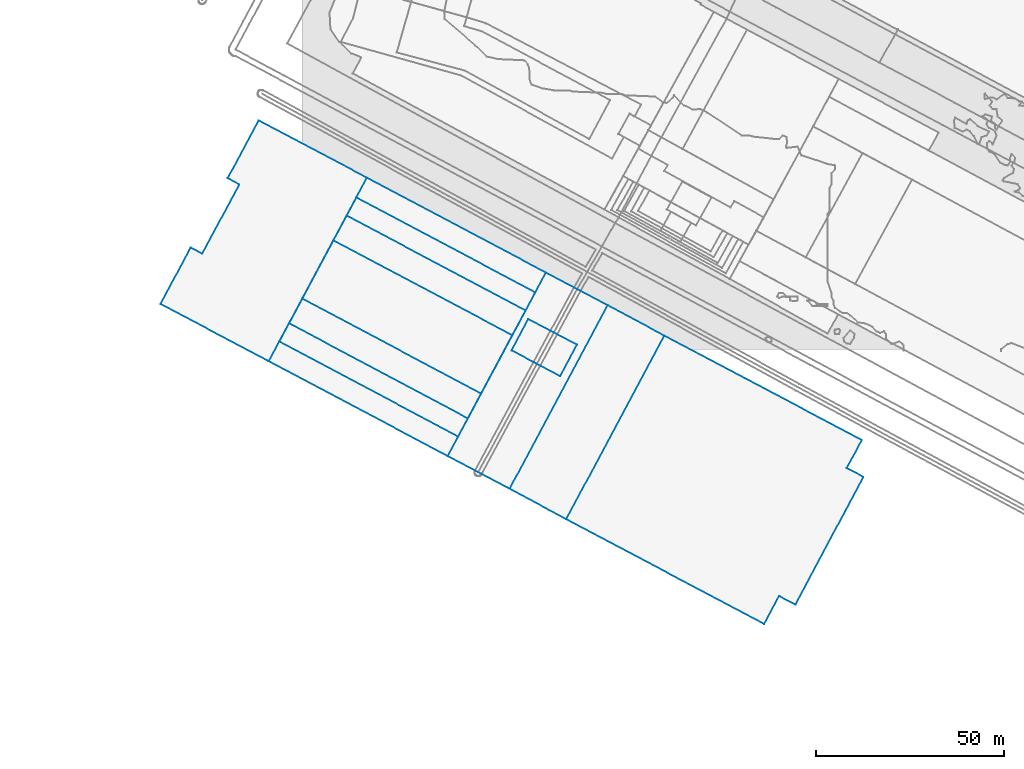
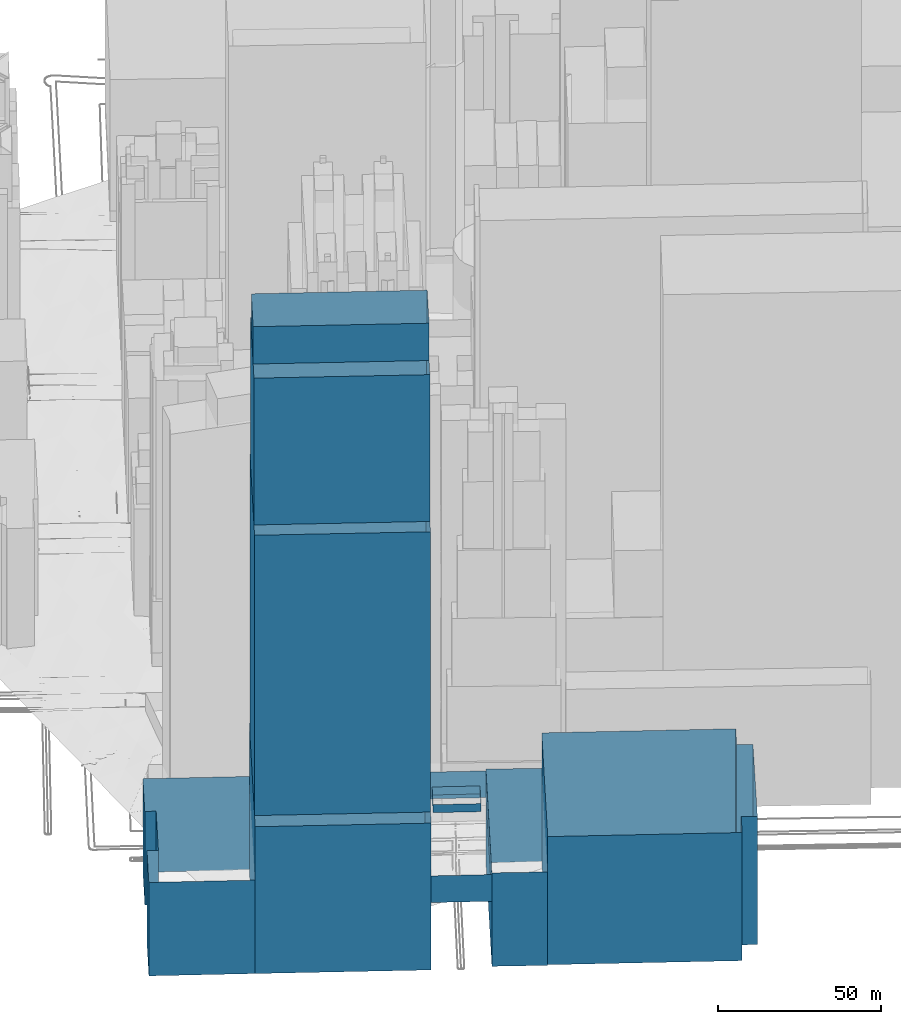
# Not in any storey, part 14 of 76: 9 walls.
"""IFC2X3 model written with IfcOpenShell, lengths in metres."""

from ifc_helpers import new_model, si_unit, frame, origin_with_axes, place, context, subcontext, project, faceted_brep, element, save


model = new_model("IFC2X3")

# Units and contexts
model_context = context("Model", 3, precision=1e-05, world=origin_with_axes())
body_context = subcontext(model_context, "Body", "Model", "MODEL_VIEW")
ifc_project = project(units=[si_unit("AREAUNIT", "SQUARE_METRE"), si_unit("LENGTHUNIT", "METRE")], contexts=[model_context])

# Walls
wall_1_placement = place(None, frame((70.4319082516, -45.3124381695, 19.6413035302), z_axis=(0.0, 0.0, 1.0), x_axis=(1.0, 0.0, 0.0)))
element("IfcWall", 1, at=wall_1_placement, Name="Mur 0", context=body_context, shape_type="Brep", body=[
    faceted_brep([(52.7563009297, -27.9312178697, 48.0), (0.0, 0.0, 48.0), (52.7563009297, -27.9312178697, 0.0), (0.0, 0.0, 0.0), (56.721804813, -20.4799520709, 48.0), (56.721804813, -20.4799520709, 0.0), (61.1215341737, -22.7936176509, 48.0), (61.1215341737, -22.7936176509, 0.0), (79.2214604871, 11.2896457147, 48.0), (79.2214604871, 11.2896457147, 0.0), (74.804734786, 13.6142050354, 48.0), (74.804734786, 13.6142050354, 0.0), (78.7949988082, 21.1101810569, 48.0), (78.7949988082, 21.1101810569, 0.0), (26.1498243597, 48.9425792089, 48.0), (26.1498243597, 48.9425792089, 0.0)], [[[0, 1, 2]], [[2, 1, 3]], [[4, 0, 5]], [[5, 0, 2]], [[6, 4, 7]], [[7, 4, 5]], [[8, 6, 9]], [[9, 6, 7]], [[10, 8, 11]], [[11, 8, 9]], [[12, 10, 13]], [[13, 10, 11]], [[1, 14, 3]], [[3, 14, 15]], [[14, 12, 15]], [[15, 12, 13]]]),
])
wall_2_placement = place(None, frame((-37.764592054, 12.0631870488, 18.5499973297), z_axis=(0.0, 0.0, 1.0), x_axis=(1.0, 0.0, 0.0)))
element("IfcWall", 2, at=wall_2_placement, Name="Mur 0", context=body_context, shape_type="Brep", body=[
    faceted_brep([(28.8870060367, -15.2414440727, 35.0), (0.0, 0.0, 35.0), (28.8870060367, -15.2414440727, 0.0), (0.0, 0.0, 0.0), (55.0371870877, 33.7008524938, 35.0), (55.0371870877, 33.7008524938, 0.0), (26.1587518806, 48.9422915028, 35.0), (26.1587518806, 48.9422915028, 0.0), (17.9295410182, 33.536852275, 35.0), (17.9295410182, 33.536852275, 0.0), (21.0212047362, 31.907372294, 35.0), (21.0212047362, 31.907372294, 0.0), (11.1393837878, 13.4185558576, 35.0), (11.1393837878, 13.4185558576, 0.0), (8.0475860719, 15.0591407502, 35.0), (8.0475860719, 15.0591407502, 0.0)], [[[0, 1, 2]], [[2, 1, 3]], [[4, 0, 5]], [[5, 0, 2]], [[6, 4, 7]], [[7, 4, 5]], [[8, 6, 9]], [[9, 6, 7]], [[10, 8, 11]], [[11, 8, 9]], [[12, 10, 13]], [[13, 10, 11]], [[1, 14, 3]], [[3, 14, 15]], [[14, 12, 15]], [[15, 12, 13]]]),
])
wall_3_placement = place(None, frame((0.0457305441, 13.5231043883, 233.5817263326), z_axis=(0.0, 0.0, 1.0), x_axis=(1.0, 0.0, 0.0)))
element("IfcWall", 3, at=wall_3_placement, Name="Mur 0", context=body_context, shape_type="Brep", body=[
    faceted_brep([(47.6860402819, -25.3593207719, 14.0), (0.0, 0.0, 14.0), (47.6860402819, -25.3593207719, 0.0), (0.0, 0.0, 0.0), (56.0060946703, -9.7862176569, 14.0), (56.0060946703, -9.7862176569, 0.0), (8.2954448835, 15.5172515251, 14.0), (8.2954448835, 15.5172515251, 0.0)], [[[0, 1, 2]], [[2, 1, 3]], [[4, 0, 5]], [[5, 0, 2]], [[1, 6, 3]], [[3, 6, 7]], [[6, 4, 7]], [[7, 4, 5]]]),
])
wall_4_placement = place(None, frame((-3.482289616, 6.9207531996, 178.5499973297), z_axis=(0.0, 0.0, 1.0), x_axis=(1.0, 0.0, 0.0)))
element("IfcWall", 4, at=wall_4_placement, Name="Mur 0", context=body_context, shape_type="Brep", body=[
    faceted_brep([(47.6860692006, -25.359343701, 55.0), (0.0, 0.0, 55.0), (47.6860692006, -25.359343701, 0.0), (0.0, 0.0, 0.0), (63.0622131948, 3.4074130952, 55.0), (63.0622131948, 3.4074130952, 0.0), (15.3430229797, 28.7218621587, 55.0), (15.3430229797, 28.7218621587, 0.0)], [[[0, 1, 2]], [[2, 1, 3]], [[4, 0, 5]], [[5, 0, 2]], [[1, 6, 3]], [[3, 6, 7]], [[6, 4, 7]], [[7, 4, 5]]]),
])
wall_5_placement = place(None, frame((-6.0684346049, 2.0834835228, 73.5499973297), z_axis=(0.0, 0.0, 1.0), x_axis=(1.0, 0.0, 0.0)))
element("IfcWall", 5, at=wall_5_placement, Name="Mur 0", context=body_context, shape_type="Brep", body=[
    faceted_brep([(47.6862192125, -25.3704612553, 105.0), (0.0, 0.0, 105.0), (47.6862192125, -25.3704612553, 0.0), (0.0, 0.0, 0.0), (68.234328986, 13.0930768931, 105.0), (68.234328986, 13.0930768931, 0.0), (20.5236005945, 38.4076070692, 105.0), (20.5236005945, 38.4076070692, 0.0)], [[[0, 1, 2]], [[2, 1, 3]], [[4, 0, 5]], [[5, 0, 2]], [[1, 6, 3]], [[3, 6, 7]], [[6, 4, 7]], [[7, 4, 5]]]),
])
wall_6_placement = place(None, frame((-8.8775860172, -3.1782570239, 18.5499973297), z_axis=(0.0, 0.0, 1.0), x_axis=(1.0, 0.0, 0.0)))
element("IfcWall", 6, at=wall_6_placement, Name="Mur 0", context=body_context, shape_type="Brep", body=[
    faceted_brep([(47.7107911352, -25.3035811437, 55.0), (0.0, 0.0, 55.0), (47.7107911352, -25.3035811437, 0.0), (0.0, 0.0, 0.0), (73.869197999, 23.6389834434, 55.0), (73.869197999, 23.6389834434, 0.0), (26.150181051, 48.9422965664, 55.0), (26.150181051, 48.9422965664, 0.0)], [[[0, 1, 2]], [[2, 1, 3]], [[4, 0, 5]], [[5, 0, 2]], [[1, 6, 3]], [[3, 6, 7]], [[6, 4, 7]], [[7, 4, 5]]]),
])
wall_7_placement = place(None, frame((55.3366535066, -37.1942935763, 19.4063848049), z_axis=(0.0, 0.0, 1.0), x_axis=(1.0, 0.0, 0.0)))
element("IfcWall", 7, at=wall_7_placement, Name="Mur 0", context=body_context, shape_type="Brep", body=[
    faceted_brep([(15.095254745, -8.1181445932, 35.0), (0.0, 0.0, 35.0), (15.095254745, -8.1181445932, 0.0), (0.0, 0.0, 0.0), (41.2450791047, 40.8244346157, 35.0), (41.2450791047, 40.8244346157, 0.0), (26.1500207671, 48.9314246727, 35.0), (26.1500207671, 48.9314246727, 0.0)], [[[0, 1, 2]], [[2, 1, 3]], [[4, 0, 5]], [[5, 0, 2]], [[1, 6, 3]], [[3, 6, 7]], [[6, 4, 7]], [[7, 4, 5]]]),
])
wall_8_placement = place(None, frame((55.8285008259, -0.2958209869, 54.4127792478), z_axis=(0.0, 0.0, 1.0), x_axis=(1.0, 0.0, 0.0)))
element("IfcWall", 8, at=wall_8_placement, Name="Mur 0", context=body_context, shape_type="Brep", body=[
    faceted_brep([(13.0041051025, -6.8767632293, 3.0), (0.0, 0.0, 3.0), (13.0041051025, -6.8767632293, 0.0), (0.0, 0.0, 0.0), (17.4570509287, 1.4905172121, 3.0), (17.4570509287, 1.4905172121, 0.0), (4.453084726, 8.356171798, 3.0), (4.453084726, 8.356171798, 0.0)], [[[0, 1, 2]], [[2, 1, 3]], [[4, 0, 5]], [[5, 0, 2]], [[1, 6, 3]], [[3, 6, 7]], [[6, 4, 7]], [[7, 4, 5]]]),
])
wall_9_placement = place(None, frame((38.833205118, -28.4818381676, 43.7777920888), z_axis=(0.0, 0.0, 1.0), x_axis=(1.0, 0.0, 0.0)))
element("IfcWall", 9, at=wall_9_placement, Name="Mur 0", context=body_context, shape_type="Brep", body=[
    faceted_brep([(16.5034483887, -8.7124554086, 10.0), (0.0, 0.0, 10.0), (16.5034483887, -8.7124554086, 0.0), (0.0, 0.0, 0.0), (42.6534691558, 40.2189692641, 10.0), (42.6534691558, 40.2189692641, 0.0), (26.1584068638, 48.9425645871, 10.0), (26.1584068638, 48.9425645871, 0.0)], [[[0, 1, 2]], [[2, 1, 3]], [[4, 0, 5]], [[5, 0, 2]], [[1, 6, 3]], [[3, 6, 7]], [[6, 4, 7]], [[7, 4, 5]]]),
])

save(model, "model.ifc")
